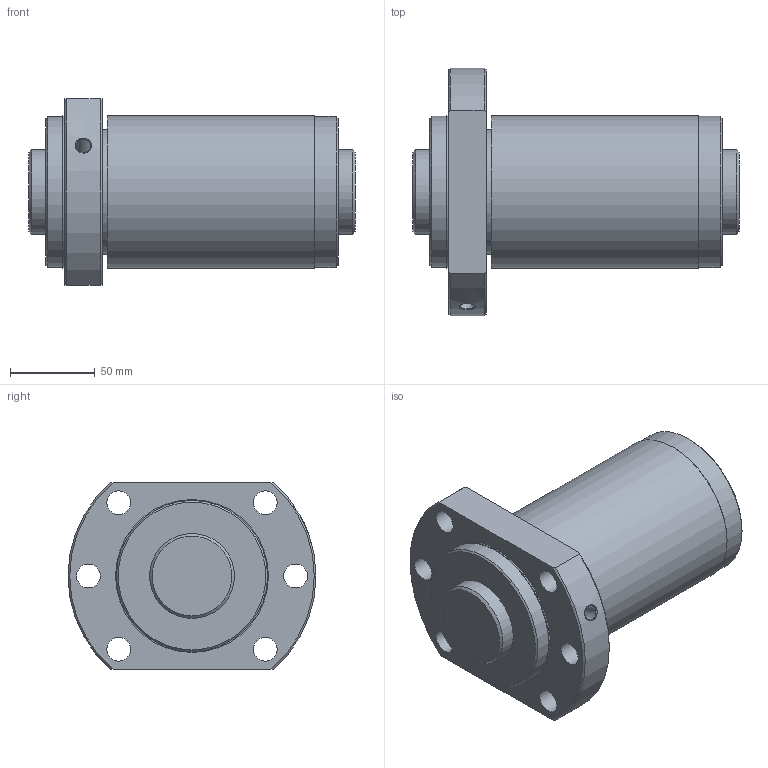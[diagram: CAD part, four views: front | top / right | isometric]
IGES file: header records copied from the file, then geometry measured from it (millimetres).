
Start section: Data from Parasolid IGES Translator 26.0.171, Copyright(c) 2006 Siemens PLM Software. All Rights Reserved.
Global section: file name: SBK5036-7.6RRG0+192LC0(0000).igs; native system: By Siemens PLM Incorporated; preprocessor: XPlus GENERIC/IGES 26.0.171; author: Noname; organization: Noname; date: 20240528.112034; units: millimetre
Bounding box: 192 x 146 x 110 mm (x, y, z)
Surface area: 145974.5 mm2 (no closed solid volume)
Topology: 0 solids, 0 shells, 37 faces, 167 edges, 143 vertices
Faces by surface type: revolution 26, extrusion 11
